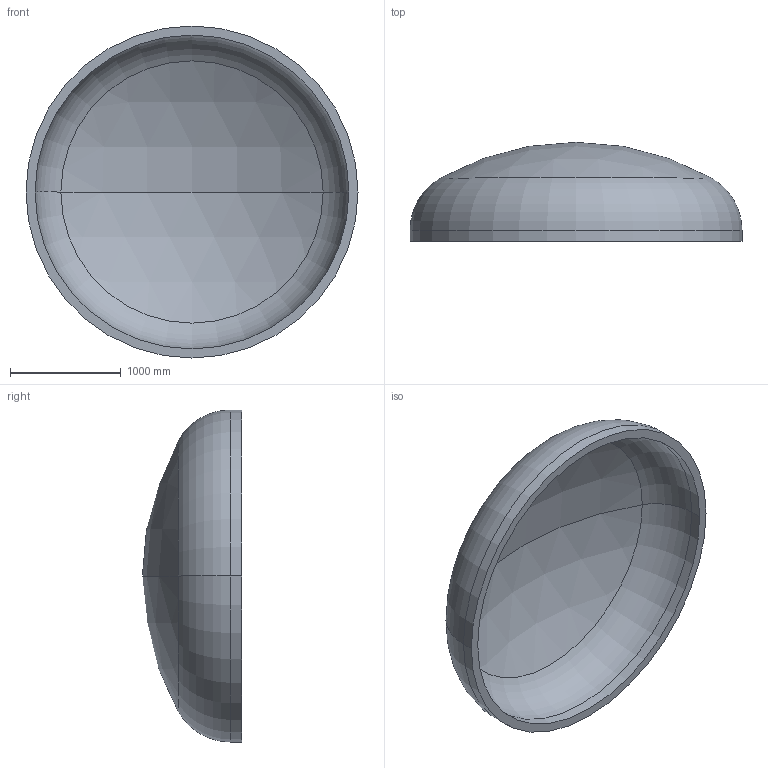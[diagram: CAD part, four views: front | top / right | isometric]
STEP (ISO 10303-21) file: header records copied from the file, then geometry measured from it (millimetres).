
FILE_DESCRIPTION (( 'STEP AP203' ), '1' );
FILE_NAME ('DIN 28013 Korbbogenform_-_Boden DIN 28013 - 3000 x 100 - I - s=82.step', '2016-07-01T18:01:31', ( '' ), ( '' ), 'SwSTEP 2.0', 'SolidWorks 2013', '' );
FILE_SCHEMA (( 'CONFIG_CONTROL_DESIGN' ));
Length unit declared in the file: millimetre
Products named in the file (1): DIN 28013 Korbbogenform_-_Boden DIN 28013 - 3000 x 100 - I - s=82
Bounding box: 3000 x 895.04 x 3000 mm (x, y, z)
Volume: 849050806 mm3; surface area: 21474339.8 mm2
Topology: 1 solids, 1 shells, 13 faces, 24 edges, 14 vertices
Faces by surface type: torus 4, cylinder 4, sphere 4, plane 1
Entity records: 407 total; most frequent: DIRECTION 72, CARTESIAN_POINT 52, ORIENTED_EDGE 48, AXIS2_PLACEMENT_3D 34, EDGE_CURVE 24, CIRCLE 20, EDGE_LOOP 14, VERTEX_POINT 14
